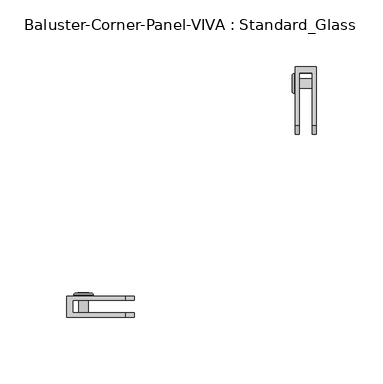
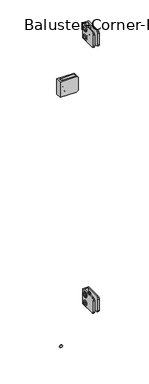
"""IFC4 building model written with IfcOpenShell, lengths in millimetres: railing geometry, Baluster-Corner-Panel-VIVA : Standard_Glass."""

from ifc_helpers import new_model, si_unit, point, frame, origin, place, context, project, spatial, polyline, circle_curve, ellipse_curve, trimmed, outline, extrude, source, transform, mapped, element, save
from ifc_brep_helpers import plane_surface, cylinder_surface, revolved_surface, advanced_brep


def baluster_corner_panel_viva_standard_glass_eac9cc2a(model_context):
    return source(origin(), model_context, "Body", "SolidModel", [
        extrude(outline(polyline([(139.6831065, 917.178125), (137.6361423, 913.6326791), (133.542214, 913.6326791), (131.4952499, 917.178125), (133.542214, 920.7235709), (137.6361423, 920.7235709), (139.6831065, 917.178125)])), frame((21.7024185, 0.0, 0.0), z_axis=(1.0, 0.0, 0.0), x_axis=(0.0, 1.0, 0.0)), (0.0, 0.0, 1.0), 1.4969696),
        advanced_brep(
        [(36.7665, 139.1346241, 917.178125), (36.7665, 132.0437323, 917.178125), (24.0665, 132.0437323, 917.178125), (24.0665, 139.1346241, 917.178125), (24.0665, 128.1813891, 917.178125), (24.0665, 142.9969672, 917.178125), (23.199388, 137.2452536, 917.178125), (23.199388, 133.9331028, 917.178125), (36.7665, 133.9331028, 917.178125), (36.7665, 137.2452536, 917.178125), (23.2316551, 142.9969672, 917.178125), (23.2316551, 128.1813891, 917.178125), (21.9503831, 129.4626611, 917.178125), (21.9503831, 141.7156952, 917.178125), (21.9503831, 131.2905826, 917.178125), (21.9503831, 139.8877737, 917.178125), (23.199388, 131.2905826, 917.178125), (23.199388, 139.8877737, 917.178125)],
        [
            (0, 1, circle_curve(frame((36.7665, 135.5891782, 917.178125), z_axis=(-1.0, 0.0, 0.0), x_axis=(0.0, -1.0, 0.0)), 3.5454459)),
            (1, 2),
            (2, 3, circle_curve(frame((24.0665, 135.5891782, 917.178125), z_axis=(1.0, 0.0, 0.0), x_axis=(0.0, -1.0, 0.0)), 3.5454459)),
            (3, 0),
            (1, 0, circle_curve(frame((36.7665, 135.5891782, 917.178125), z_axis=(-1.0, 0.0, 0.0), x_axis=(0.0, -1.0, 0.0)), 3.5454459)),
            (3, 2, circle_curve(frame((24.0665, 135.5891782, 917.178125), z_axis=(1.0, 0.0, 0.0), x_axis=(0.0, -1.0, 0.0)), 3.5454459)),
            (2, 4),
            (4, 5, circle_curve(frame((24.0665, 135.5891782, 917.178125), z_axis=(1.0, 0.0, 0.0), x_axis=(0.0, -1.0, 0.0)), 7.4077891)),
            (5, 3),
            (5, 4, circle_curve(frame((24.0665, 135.5891782, 917.178125), z_axis=(1.0, 0.0, 0.0), x_axis=(0.0, -1.0, 0.0)), 7.4077891)),
            (6, 7, circle_curve(frame((23.199388, 135.5891782, 917.178125), z_axis=(-1.0, 0.0, 0.0), x_axis=(0.0, -1.0, 0.0)), 1.6560754)),
            (7, 8),
            (8, 9, circle_curve(frame((36.7665, 135.5891782, 917.178125), z_axis=(1.0, 0.0, 0.0), x_axis=(0.0, -1.0, 0.0)), 1.6560754)),
            (9, 6),
            (7, 6, circle_curve(frame((23.199388, 135.5891782, 917.178125), z_axis=(-1.0, 0.0, 0.0), x_axis=(0.0, -1.0, 0.0)), 1.6560754)),
            (9, 8, circle_curve(frame((36.7665, 135.5891782, 917.178125), z_axis=(1.0, 0.0, 0.0), x_axis=(0.0, -1.0, 0.0)), 1.6560754)),
            (10, 11, circle_curve(frame((23.2316551, 135.5891782, 917.178125), z_axis=(-1.0, 0.0, 0.0), x_axis=(0.0, -1.0, 0.0)), 7.4077891)),
            (11, 12, circle_curve(frame((23.2316551, 129.4626611, 917.178125), z_axis=(0.0, 0.0, -1.0), x_axis=(0.0, -1.0, 0.0)), 1.281272)),
            (12, 13, circle_curve(frame((21.9503831, 135.5891782, 917.178125), z_axis=(1.0, 0.0, 0.0), x_axis=(0.0, -1.0, 0.0)), 6.1265171)),
            (13, 10, circle_curve(frame((23.2316551, 141.7156952, 917.178125), z_axis=(0.0, 0.0, -1.0), x_axis=(0.0, 1.0, 0.0)), 1.281272)),
            (11, 10, circle_curve(frame((23.2316551, 135.5891782, 917.178125), z_axis=(-1.0, 0.0, 0.0), x_axis=(0.0, -1.0, 0.0)), 7.4077891)),
            (13, 12, circle_curve(frame((21.9503831, 135.5891782, 917.178125), z_axis=(1.0, 0.0, 0.0), x_axis=(0.0, -1.0, 0.0)), 6.1265171)),
            (12, 14),
            (14, 15, circle_curve(frame((21.9503831, 135.5891782, 917.178125), z_axis=(1.0, 0.0, 0.0), x_axis=(0.0, -1.0, 0.0)), 4.2985955)),
            (15, 13),
            (15, 14, circle_curve(frame((21.9503831, 135.5891782, 917.178125), z_axis=(1.0, 0.0, 0.0), x_axis=(0.0, -1.0, 0.0)), 4.2985955)),
            (4, 11),
            (10, 5),
            (8, 1),
            (0, 9),
            (14, 16),
            (16, 17, circle_curve(frame((23.199388, 135.5891782, 917.178125), z_axis=(1.0, 0.0, 0.0), x_axis=(0.0, -1.0, 0.0)), 4.2985955)),
            (17, 15),
            (17, 16, circle_curve(frame((23.199388, 135.5891782, 917.178125), z_axis=(1.0, 0.0, 0.0), x_axis=(0.0, -1.0, 0.0)), 4.2985955)),
            (16, 7),
            (6, 17),
        ],
        [
            cylinder_surface(frame((27.5632331, 135.5891782, 917.178125), z_axis=(1.0, 0.0, 0.0), x_axis=(0.0, -1.0, 0.0)), 3.5454459),
            plane_surface(frame((24.0665, 135.5891782, 917.178125), z_axis=(1.0, 0.0, 0.0), x_axis=(0.0, -1.0, 0.0))),
            revolved_surface(polyline([(36.7665, 133.9331028, 917.178125), (23.199388, 133.9331028, 917.178125)]), (27.5632331, 135.5891782, 917.178125), (1.0, 0.0, 0.0)),
            revolved_surface(trimmed(ellipse_curve(frame((23.2316551, 129.4626611, 917.178125), z_axis=(0.0, 0.0, 1.0), x_axis=(0.0, -1.0, 0.0)), 1.281272, 1.281272), [point((21.9503831, 129.4626611, 917.178125))], [point((23.2316551, 128.1813891, 917.178125))], True, "CARTESIAN"), (27.5632331, 135.5891782, 917.178125), (1.0, 0.0, 0.0)),
            plane_surface(frame((21.9503831, 135.5891782, 917.178125), z_axis=(-1.0, 0.0, 0.0), x_axis=(0.0, -1.0, 0.0))),
            cylinder_surface(frame((27.5632331, 135.5891782, 917.178125), z_axis=(1.0, 0.0, 0.0), x_axis=(0.0, -1.0, 0.0)), 7.4077891),
            plane_surface(frame((36.7665, 135.5891782, 917.178125), z_axis=(1.0, 0.0, 0.0), x_axis=(0.0, -1.0, 0.0))),
            revolved_surface(polyline([(23.199388, 131.2905827, 917.178125), (21.9503831, 131.2905827, 917.178125)]), (27.5632331, 135.5891782, 917.178125), (1.0, 0.0, 0.0)),
            plane_surface(frame((23.199388, 135.5891782, 917.178125), z_axis=(-1.0, 0.0, 0.0), x_axis=(0.0, -1.0, 0.0))),
        ],
        [
            (0, [[1, 2, 3, 4]]),
            (0, [[5, -4, 6, -2]]),
            (1, [[-3, 7, 8, 9]]),
            (1, [[-6, -9, 10, -7]]),
            (2, [[11, 12, 13, 14]]),
            (2, [[15, -14, 16, -12]]),
            (3, [[17, 18, 19, 20]]),
            (3, [[21, -20, 22, -18]]),
            (4, [[-19, 23, 24, 25]]),
            (4, [[-22, -25, 26, -23]]),
            (5, [[-8, 27, -17, 28]]),
            (5, [[-10, -28, -21, -27]]),
            (6, [[-13, 29, -1, 30]]),
            (6, [[-16, -30, -5, -29]]),
            (7, [[-24, 31, 32, 33]]),
            (7, [[-26, -33, 34, -31]]),
            (8, [[-32, 35, -11, 36]]),
            (8, [[-34, -36, -15, -35]]),
        ],
    ),
        advanced_brep(
        [(36.7665, 139.1346241, 892.571875), (36.7665, 132.0437323, 892.571875), (24.0665, 132.0437323, 892.571875), (24.0665, 139.1346241, 892.571875), (24.0665, 128.1813891, 892.571875), (24.0665, 142.9969672, 892.571875), (23.199388, 137.2452536, 892.571875), (23.199388, 133.9331028, 892.571875), (36.7665, 133.9331028, 892.571875), (36.7665, 137.2452536, 892.571875), (23.2316551, 142.9969672, 892.571875), (23.2316551, 128.1813891, 892.571875), (21.9503831, 129.4626611, 892.571875), (21.9503831, 141.7156952, 892.571875), (21.9503831, 131.2905826, 892.571875), (21.9503831, 139.8877737, 892.571875), (23.199388, 131.2905826, 892.571875), (23.199388, 139.8877737, 892.571875)],
        [
            (0, 1, circle_curve(frame((36.7665, 135.5891782, 892.571875), z_axis=(-1.0, 0.0, 0.0), x_axis=(0.0, -1.0, 0.0)), 3.5454459)),
            (1, 2),
            (2, 3, circle_curve(frame((24.0665, 135.5891782, 892.571875), z_axis=(1.0, 0.0, 0.0), x_axis=(0.0, -1.0, 0.0)), 3.5454459)),
            (3, 0),
            (1, 0, circle_curve(frame((36.7665, 135.5891782, 892.571875), z_axis=(-1.0, 0.0, 0.0), x_axis=(0.0, -1.0, 0.0)), 3.5454459)),
            (3, 2, circle_curve(frame((24.0665, 135.5891782, 892.571875), z_axis=(1.0, 0.0, 0.0), x_axis=(0.0, -1.0, 0.0)), 3.5454459)),
            (2, 4),
            (4, 5, circle_curve(frame((24.0665, 135.5891782, 892.571875), z_axis=(1.0, 0.0, 0.0), x_axis=(0.0, -1.0, 0.0)), 7.4077891)),
            (5, 3),
            (5, 4, circle_curve(frame((24.0665, 135.5891782, 892.571875), z_axis=(1.0, 0.0, 0.0), x_axis=(0.0, -1.0, 0.0)), 7.4077891)),
            (6, 7, circle_curve(frame((23.199388, 135.5891782, 892.571875), z_axis=(-1.0, 0.0, 0.0), x_axis=(0.0, -1.0, 0.0)), 1.6560754)),
            (7, 8),
            (8, 9, circle_curve(frame((36.7665, 135.5891782, 892.571875), z_axis=(1.0, 0.0, 0.0), x_axis=(0.0, -1.0, 0.0)), 1.6560754)),
            (9, 6),
            (7, 6, circle_curve(frame((23.199388, 135.5891782, 892.571875), z_axis=(-1.0, 0.0, 0.0), x_axis=(0.0, -1.0, 0.0)), 1.6560754)),
            (9, 8, circle_curve(frame((36.7665, 135.5891782, 892.571875), z_axis=(1.0, 0.0, 0.0), x_axis=(0.0, -1.0, 0.0)), 1.6560754)),
            (10, 11, circle_curve(frame((23.2316551, 135.5891782, 892.571875), z_axis=(-1.0, 0.0, 0.0), x_axis=(0.0, -1.0, 0.0)), 7.4077891)),
            (11, 12, circle_curve(frame((23.2316551, 129.4626611, 892.571875), z_axis=(0.0, 0.0, -1.0), x_axis=(0.0, -1.0, 0.0)), 1.281272)),
            (12, 13, circle_curve(frame((21.9503831, 135.5891782, 892.571875), z_axis=(1.0, 0.0, 0.0), x_axis=(0.0, -1.0, 0.0)), 6.1265171)),
            (13, 10, circle_curve(frame((23.2316551, 141.7156952, 892.571875), z_axis=(0.0, 0.0, -1.0), x_axis=(0.0, 1.0, 0.0)), 1.281272)),
            (11, 10, circle_curve(frame((23.2316551, 135.5891782, 892.571875), z_axis=(-1.0, 0.0, 0.0), x_axis=(0.0, -1.0, 0.0)), 7.4077891)),
            (13, 12, circle_curve(frame((21.9503831, 135.5891782, 892.571875), z_axis=(1.0, 0.0, 0.0), x_axis=(0.0, -1.0, 0.0)), 6.1265171)),
            (12, 14),
            (14, 15, circle_curve(frame((21.9503831, 135.5891782, 892.571875), z_axis=(1.0, 0.0, 0.0), x_axis=(0.0, -1.0, 0.0)), 4.2985955)),
            (15, 13),
            (15, 14, circle_curve(frame((21.9503831, 135.5891782, 892.571875), z_axis=(1.0, 0.0, 0.0), x_axis=(0.0, -1.0, 0.0)), 4.2985955)),
            (8, 1),
            (0, 9),
            (4, 11),
            (10, 5),
            (14, 16),
            (16, 17, circle_curve(frame((23.199388, 135.5891782, 892.571875), z_axis=(1.0, 0.0, 0.0), x_axis=(0.0, -1.0, 0.0)), 4.2985955)),
            (17, 15),
            (17, 16, circle_curve(frame((23.199388, 135.5891782, 892.571875), z_axis=(1.0, 0.0, 0.0), x_axis=(0.0, -1.0, 0.0)), 4.2985955)),
            (16, 7),
            (6, 17),
        ],
        [
            cylinder_surface(frame((27.5632331, 135.5891782, 892.571875), z_axis=(1.0, 0.0, 0.0), x_axis=(0.0, -1.0, 0.0)), 3.5454459),
            plane_surface(frame((24.0665, 135.5891782, 892.571875), z_axis=(1.0, 0.0, 0.0), x_axis=(0.0, -1.0, 0.0))),
            revolved_surface(polyline([(36.7665, 133.9331028, 892.571875), (23.199388, 133.9331028, 892.571875)]), (27.5632331, 135.5891782, 892.571875), (1.0, 0.0, 0.0)),
            revolved_surface(trimmed(ellipse_curve(frame((23.2316551, 129.4626611, 892.571875), z_axis=(0.0, 0.0, 1.0), x_axis=(0.0, -1.0, 0.0)), 1.281272, 1.281272), [point((21.9503831, 129.4626611, 892.571875))], [point((23.2316551, 128.1813891, 892.571875))], True, "CARTESIAN"), (27.5632331, 135.5891782, 892.571875), (1.0, 0.0, 0.0)),
            plane_surface(frame((21.9503831, 135.5891782, 892.571875), z_axis=(-1.0, 0.0, 0.0), x_axis=(0.0, -1.0, 0.0))),
            plane_surface(frame((36.7665, 135.5891782, 892.571875), z_axis=(1.0, 0.0, 0.0), x_axis=(0.0, -1.0, 0.0))),
            cylinder_surface(frame((27.5632331, 135.5891782, 892.571875), z_axis=(1.0, 0.0, 0.0), x_axis=(0.0, -1.0, 0.0)), 7.4077891),
            revolved_surface(polyline([(23.199388, 131.2905827, 892.571875), (21.9503831, 131.2905827, 892.571875)]), (27.5632331, 135.5891782, 892.571875), (1.0, 0.0, 0.0)),
            plane_surface(frame((23.199388, 135.5891782, 892.571875), z_axis=(-1.0, 0.0, 0.0), x_axis=(0.0, -1.0, 0.0))),
        ],
        [
            (0, [[1, 2, 3, 4]]),
            (0, [[5, -4, 6, -2]]),
            (1, [[-3, 7, 8, 9]]),
            (1, [[-6, -9, 10, -7]]),
            (2, [[11, 12, 13, 14]]),
            (2, [[15, -14, 16, -12]]),
            (3, [[17, 18, 19, 20]]),
            (3, [[21, -20, 22, -18]]),
            (4, [[-19, 23, 24, 25]]),
            (4, [[-22, -25, 26, -23]]),
            (5, [[-13, 27, -1, 28]]),
            (5, [[-16, -28, -5, -27]]),
            (6, [[-8, 29, -17, 30]]),
            (6, [[-10, -30, -21, -29]]),
            (7, [[-24, 31, 32, 33]]),
            (7, [[-26, -33, 34, -31]]),
            (8, [[-32, 35, -11, 36]]),
            (8, [[-34, -36, -15, -35]]),
        ],
    ),
        extrude(outline(polyline([(139.6831065, 892.571875), (137.6361423, 889.0264291), (133.542214, 889.0264291), (131.4952499, 892.571875), (133.542214, 896.1173209), (137.6361423, 896.1173209), (139.6831065, 892.571875)])), frame((21.7024185, 0.0, 0.0), z_axis=(1.0, 0.0, 0.0), x_axis=(0.0, 1.0, 0.0)), (0.0, 0.0, 1.0), 1.4969696),
        advanced_brep(
        [(24.0665, 148.2225229, 927.1), (24.0665, 148.2225229, 882.65), (24.0665, 103.7725229, 882.65), (24.0665, 97.4225229, 889.0), (24.0665, 97.4225229, 920.75), (24.0665, 103.7725229, 927.1), (39.9415, 148.2225229, 927.1), (39.9415, 103.7725229, 927.1), (39.9415, 97.4225229, 920.75), (39.9415, 97.4225229, 889.0), (39.9415, 103.7725229, 882.65), (39.9415, 148.2225229, 882.65), (36.7665, 103.7725229, 882.65), (36.7665, 143.5044425, 882.65), (27.2415, 143.5044425, 882.65), (27.2415, 103.7725229, 882.65), (36.7665, 143.5044425, 927.1), (27.2415, 143.5044425, 927.1), (27.2415, 103.7725229, 927.1), (27.2415, 97.4225229, 920.75), (27.2415, 97.4225229, 889.0), (36.7665, 97.4225229, 889.0), (36.7665, 97.4225229, 920.75), (36.7665, 103.7725229, 927.1)],
        [
            (0, 1),
            (1, 2),
            (2, 3, circle_curve(frame((24.0665, 103.7725229, 889.0), z_axis=(-1.0, 0.0, 0.0), x_axis=(0.0, -1.0, 0.0)), 6.35)),
            (3, 4),
            (4, 5, circle_curve(frame((24.0665, 103.7725229, 920.75), z_axis=(-1.0, 0.0, 0.0), x_axis=(0.0, -1.0, 0.0)), 6.35)),
            (5, 0),
            (6, 7),
            (7, 8, circle_curve(frame((39.9415, 103.7725229, 920.75), z_axis=(1.0, 0.0, 0.0), x_axis=(0.0, -1.0, 0.0)), 6.35)),
            (8, 9),
            (9, 10, circle_curve(frame((39.9415, 103.7725229, 889.0), z_axis=(1.0, 0.0, 0.0), x_axis=(0.0, -1.0, 0.0)), 6.35)),
            (10, 11),
            (11, 6),
            (0, 6),
            (11, 1),
            (10, 12),
            (12, 13),
            (13, 14),
            (14, 15),
            (15, 2),
            (13, 16),
            (16, 17),
            (17, 14),
            (17, 18),
            (18, 19, circle_curve(frame((27.2415, 103.7725229, 920.75), z_axis=(1.0, 0.0, 0.0), x_axis=(0.0, -1.0, 0.0)), 6.35)),
            (19, 20),
            (20, 15, circle_curve(frame((27.2415, 103.7725229, 889.0), z_axis=(1.0, 0.0, 0.0), x_axis=(0.0, -1.0, 0.0)), 6.35)),
            (12, 21, circle_curve(frame((36.7665, 103.7725229, 889.0), z_axis=(-1.0, 0.0, 0.0), x_axis=(0.0, -1.0, 0.0)), 6.35)),
            (21, 22),
            (22, 23, circle_curve(frame((36.7665, 103.7725229, 920.75), z_axis=(-1.0, 0.0, 0.0), x_axis=(0.0, -1.0, 0.0)), 6.35)),
            (23, 16),
            (20, 3),
            (9, 21),
            (19, 4),
            (8, 22),
            (18, 5),
            (7, 23),
        ],
        [
            plane_surface(frame((24.0665, 148.2225229, 882.65), z_axis=(-1.0, 0.0, 0.0), x_axis=(0.0, 0.0, -1.0))),
            plane_surface(frame((39.9415, 148.2225229, 882.65), z_axis=(1.0, 0.0, 0.0), x_axis=(0.0, 0.0, 1.0))),
            plane_surface(frame((24.0665, 148.2225229, 927.1), z_axis=(0.0, 1.0, 0.0), x_axis=(1.0, 0.0, 0.0))),
            plane_surface(frame((24.0665, 148.2225229, 882.65), z_axis=(0.0, 0.0, -1.0), x_axis=(1.0, 0.0, 0.0))),
            plane_surface(frame((36.7665, 143.5044425, 939.8), z_axis=(0.0, -1.0, 0.0), x_axis=(0.0, 0.0, -1.0))),
            plane_surface(frame((27.2415, 143.5044425, 939.8), z_axis=(1.0, 0.0, 0.0), x_axis=(0.0, 0.0, -1.0))),
            plane_surface(frame((36.7665, 84.7225229, 939.8), z_axis=(-1.0, 0.0, 0.0), x_axis=(0.0, 0.0, -1.0))),
            cylinder_surface(frame((39.9415, 103.7725229, 889.0), z_axis=(-1.0, 0.0, 0.0), x_axis=(0.0, -1.0, 0.0)), 6.35),
            plane_surface(frame((24.0665, 97.4225229, 889.0), z_axis=(0.0, -1.0, 0.0), x_axis=(1.0, 0.0, 0.0))),
            cylinder_surface(frame((39.9415, 103.7725229, 920.75), z_axis=(-1.0, 0.0, 0.0), x_axis=(0.0, -1.0, 0.0)), 6.35),
            plane_surface(frame((24.0665, 103.7725229, 927.1), z_axis=(0.0, 0.0, 1.0), x_axis=(1.0, 0.0, 0.0))),
        ],
        [
            (0, [[1, 2, 3, 4, 5, 6]]),
            (1, [[7, 8, 9, 10, 11, 12]]),
            (2, [[-1, 13, -12, 14]]),
            (3, [[-2, -14, -11, 15, 16, 17, 18, 19]]),
            (4, [[20, 21, 22, -17]]),
            (5, [[-22, 23, 24, 25, 26, -18]]),
            (6, [[-20, -16, 27, 28, 29, 30]]),
            (7, [[-3, -19, -26, 31]]),
            (7, [[-10, 32, -27, -15]]),
            (8, [[-4, -31, -25, 33]]),
            (8, [[-9, 34, -28, -32]]),
            (9, [[-5, -33, -24, 35]]),
            (9, [[-8, 36, -29, -34]]),
            (10, [[-6, -35, -23, -21, -30, -36, -7, -13]]),
        ],
    ),
        extrude(outline(polyline([(139.6831065, 138.7358896), (137.6361423, 135.1904437), (133.542214, 135.1904437), (131.4952499, 138.7358896), (133.542214, 142.2813355), (137.6361423, 142.2813355), (139.6831065, 138.7358896)])), frame((21.7024185, 0.0, 0.0), z_axis=(1.0, 0.0, 0.0), x_axis=(0.0, 1.0, 0.0)), (0.0, 0.0, 1.0), 1.4969696),
        advanced_brep(
        [(36.7665, 139.1346241, 138.7358896), (36.7665, 132.0437323, 138.7358896), (24.0665, 132.0437323, 138.7358896), (24.0665, 139.1346241, 138.7358896), (24.0665, 128.1813891, 138.7358896), (24.0665, 142.9969672, 138.7358896), (23.199388, 137.2452536, 138.7358896), (23.199388, 133.9331028, 138.7358896), (36.7665, 133.9331028, 138.7358896), (36.7665, 137.2452536, 138.7358896), (23.2316551, 142.9969672, 138.7358896), (23.2316551, 128.1813891, 138.7358896), (21.9503831, 129.4626611, 138.7358896), (21.9503831, 141.7156952, 138.7358896), (21.9503831, 131.2905826, 138.7358896), (21.9503831, 139.8877737, 138.7358896), (23.199388, 131.2905826, 138.7358896), (23.199388, 139.8877737, 138.7358896)],
        [
            (0, 1, circle_curve(frame((36.7665, 135.5891782, 138.7358896), z_axis=(-1.0, 0.0, 0.0), x_axis=(0.0, -1.0, 0.0)), 3.5454459)),
            (1, 2),
            (2, 3, circle_curve(frame((24.0665, 135.5891782, 138.7358896), z_axis=(1.0, 0.0, 0.0), x_axis=(0.0, -1.0, 0.0)), 3.5454459)),
            (3, 0),
            (1, 0, circle_curve(frame((36.7665, 135.5891782, 138.7358896), z_axis=(-1.0, 0.0, 0.0), x_axis=(0.0, -1.0, 0.0)), 3.5454459)),
            (3, 2, circle_curve(frame((24.0665, 135.5891782, 138.7358896), z_axis=(1.0, 0.0, 0.0), x_axis=(0.0, -1.0, 0.0)), 3.5454459)),
            (2, 4),
            (4, 5, circle_curve(frame((24.0665, 135.5891782, 138.7358896), z_axis=(1.0, 0.0, 0.0), x_axis=(0.0, -1.0, 0.0)), 7.4077891)),
            (5, 3),
            (5, 4, circle_curve(frame((24.0665, 135.5891782, 138.7358896), z_axis=(1.0, 0.0, 0.0), x_axis=(0.0, -1.0, 0.0)), 7.4077891)),
            (6, 7, circle_curve(frame((23.199388, 135.5891782, 138.7358896), z_axis=(-1.0, 0.0, 0.0), x_axis=(0.0, -1.0, 0.0)), 1.6560754)),
            (7, 8),
            (8, 9, circle_curve(frame((36.7665, 135.5891782, 138.7358896), z_axis=(1.0, 0.0, 0.0), x_axis=(0.0, -1.0, 0.0)), 1.6560754)),
            (9, 6),
            (7, 6, circle_curve(frame((23.199388, 135.5891782, 138.7358896), z_axis=(-1.0, 0.0, 0.0), x_axis=(0.0, -1.0, 0.0)), 1.6560754)),
            (9, 8, circle_curve(frame((36.7665, 135.5891782, 138.7358896), z_axis=(1.0, 0.0, 0.0), x_axis=(0.0, -1.0, 0.0)), 1.6560754)),
            (10, 11, circle_curve(frame((23.2316551, 135.5891782, 138.7358896), z_axis=(-1.0, 0.0, 0.0), x_axis=(0.0, -1.0, 0.0)), 7.4077891)),
            (11, 12, circle_curve(frame((23.2316551, 129.4626611, 138.7358896), z_axis=(0.0, 0.0, -1.0), x_axis=(0.0, -1.0, 0.0)), 1.281272)),
            (12, 13, circle_curve(frame((21.9503831, 135.5891782, 138.7358896), z_axis=(1.0, 0.0, 0.0), x_axis=(0.0, -1.0, 0.0)), 6.1265171)),
            (13, 10, circle_curve(frame((23.2316551, 141.7156952, 138.7358896), z_axis=(0.0, 0.0, -1.0), x_axis=(0.0, 1.0, 0.0)), 1.281272)),
            (11, 10, circle_curve(frame((23.2316551, 135.5891782, 138.7358896), z_axis=(-1.0, 0.0, 0.0), x_axis=(0.0, -1.0, 0.0)), 7.4077891)),
            (13, 12, circle_curve(frame((21.9503831, 135.5891782, 138.7358896), z_axis=(1.0, 0.0, 0.0), x_axis=(0.0, -1.0, 0.0)), 6.1265171)),
            (12, 14),
            (14, 15, circle_curve(frame((21.9503831, 135.5891782, 138.7358896), z_axis=(1.0, 0.0, 0.0), x_axis=(0.0, -1.0, 0.0)), 4.2985955)),
            (15, 13),
            (15, 14, circle_curve(frame((21.9503831, 135.5891782, 138.7358896), z_axis=(1.0, 0.0, 0.0), x_axis=(0.0, -1.0, 0.0)), 4.2985955)),
            (4, 11),
            (10, 5),
            (8, 1),
            (0, 9),
            (14, 16),
            (16, 17, circle_curve(frame((23.199388, 135.5891782, 138.7358896), z_axis=(1.0, 0.0, 0.0), x_axis=(0.0, -1.0, 0.0)), 4.2985955)),
            (17, 15),
            (17, 16, circle_curve(frame((23.199388, 135.5891782, 138.7358896), z_axis=(1.0, 0.0, 0.0), x_axis=(0.0, -1.0, 0.0)), 4.2985955)),
            (16, 7),
            (6, 17),
        ],
        [
            cylinder_surface(frame((27.5632331, 135.5891782, 138.7358896), z_axis=(1.0, 0.0, 0.0), x_axis=(0.0, -1.0, 0.0)), 3.5454459),
            plane_surface(frame((24.0665, 135.5891782, 138.7358896), z_axis=(1.0, 0.0, 0.0), x_axis=(0.0, -1.0, 0.0))),
            revolved_surface(polyline([(36.7665, 133.9331028, 138.7358896), (23.199388, 133.9331028, 138.7358896)]), (27.5632331, 135.5891782, 138.7358896), (1.0, 0.0, 0.0)),
            revolved_surface(trimmed(ellipse_curve(frame((23.2316551, 129.4626611, 138.7358896), z_axis=(0.0, 0.0, 1.0), x_axis=(0.0, -1.0, 0.0)), 1.281272, 1.281272), [point((21.9503831, 129.4626611, 138.7358896))], [point((23.2316551, 128.1813891, 138.7358896))], True, "CARTESIAN"), (27.5632331, 135.5891782, 138.7358896), (1.0, 0.0, 0.0)),
            plane_surface(frame((21.9503831, 135.5891782, 138.7358896), z_axis=(-1.0, 0.0, 0.0), x_axis=(0.0, -1.0, 0.0))),
            cylinder_surface(frame((27.5632331, 135.5891782, 138.7358896), z_axis=(1.0, 0.0, 0.0), x_axis=(0.0, -1.0, 0.0)), 7.4077891),
            plane_surface(frame((36.7665, 135.5891782, 138.7358896), z_axis=(1.0, 0.0, 0.0), x_axis=(0.0, -1.0, 0.0))),
            revolved_surface(polyline([(23.199388, 131.2905827, 138.7358896), (21.9503831, 131.2905827, 138.7358896)]), (27.5632331, 135.5891782, 138.7358896), (1.0, 0.0, 0.0)),
            plane_surface(frame((23.199388, 135.5891782, 138.7358896), z_axis=(-1.0, 0.0, 0.0), x_axis=(0.0, -1.0, 0.0))),
        ],
        [
            (0, [[1, 2, 3, 4]]),
            (0, [[5, -4, 6, -2]]),
            (1, [[-3, 7, 8, 9]]),
            (1, [[-6, -9, 10, -7]]),
            (2, [[11, 12, 13, 14]]),
            (2, [[15, -14, 16, -12]]),
            (3, [[17, 18, 19, 20]]),
            (3, [[21, -20, 22, -18]]),
            (4, [[-19, 23, 24, 25]]),
            (4, [[-22, -25, 26, -23]]),
            (5, [[-8, 27, -17, 28]]),
            (5, [[-10, -28, -21, -27]]),
            (6, [[-13, 29, -1, 30]]),
            (6, [[-16, -30, -5, -29]]),
            (7, [[-24, 31, 32, 33]]),
            (7, [[-26, -33, 34, -31]]),
            (8, [[-32, 35, -11, 36]]),
            (8, [[-34, -36, -15, -35]]),
        ],
    ),
        advanced_brep(
        [(36.7665, 139.1346241, 114.1296396), (36.7665, 132.0437323, 114.1296396), (24.0665, 132.0437323, 114.1296396), (24.0665, 139.1346241, 114.1296396), (24.0665, 128.1813891, 114.1296396), (24.0665, 142.9969672, 114.1296396), (23.199388, 137.2452536, 114.1296396), (23.199388, 133.9331028, 114.1296396), (36.7665, 133.9331028, 114.1296396), (36.7665, 137.2452536, 114.1296396), (23.2316551, 142.9969672, 114.1296396), (23.2316551, 128.1813891, 114.1296396), (21.9503831, 129.4626611, 114.1296396), (21.9503831, 141.7156952, 114.1296396), (21.9503831, 131.2905826, 114.1296396), (21.9503831, 139.8877737, 114.1296396), (23.199388, 131.2905826, 114.1296396), (23.199388, 139.8877737, 114.1296396)],
        [
            (0, 1, circle_curve(frame((36.7665, 135.5891782, 114.1296396), z_axis=(-1.0, 0.0, 0.0), x_axis=(0.0, -1.0, 0.0)), 3.5454459)),
            (1, 2),
            (2, 3, circle_curve(frame((24.0665, 135.5891782, 114.1296396), z_axis=(1.0, 0.0, 0.0), x_axis=(0.0, -1.0, 0.0)), 3.5454459)),
            (3, 0),
            (1, 0, circle_curve(frame((36.7665, 135.5891782, 114.1296396), z_axis=(-1.0, 0.0, 0.0), x_axis=(0.0, -1.0, 0.0)), 3.5454459)),
            (3, 2, circle_curve(frame((24.0665, 135.5891782, 114.1296396), z_axis=(1.0, 0.0, 0.0), x_axis=(0.0, -1.0, 0.0)), 3.5454459)),
            (2, 4),
            (4, 5, circle_curve(frame((24.0665, 135.5891782, 114.1296396), z_axis=(1.0, 0.0, 0.0), x_axis=(0.0, -1.0, 0.0)), 7.4077891)),
            (5, 3),
            (5, 4, circle_curve(frame((24.0665, 135.5891782, 114.1296396), z_axis=(1.0, 0.0, 0.0), x_axis=(0.0, -1.0, 0.0)), 7.4077891)),
            (6, 7, circle_curve(frame((23.199388, 135.5891782, 114.1296396), z_axis=(-1.0, 0.0, 0.0), x_axis=(0.0, -1.0, 0.0)), 1.6560754)),
            (7, 8),
            (8, 9, circle_curve(frame((36.7665, 135.5891782, 114.1296396), z_axis=(1.0, 0.0, 0.0), x_axis=(0.0, -1.0, 0.0)), 1.6560754)),
            (9, 6),
            (7, 6, circle_curve(frame((23.199388, 135.5891782, 114.1296396), z_axis=(-1.0, 0.0, 0.0), x_axis=(0.0, -1.0, 0.0)), 1.6560754)),
            (9, 8, circle_curve(frame((36.7665, 135.5891782, 114.1296396), z_axis=(1.0, 0.0, 0.0), x_axis=(0.0, -1.0, 0.0)), 1.6560754)),
            (10, 11, circle_curve(frame((23.2316551, 135.5891782, 114.1296396), z_axis=(-1.0, 0.0, 0.0), x_axis=(0.0, -1.0, 0.0)), 7.4077891)),
            (11, 12, circle_curve(frame((23.2316551, 129.4626611, 114.1296396), z_axis=(0.0, 0.0, -1.0), x_axis=(0.0, -1.0, 0.0)), 1.281272)),
            (12, 13, circle_curve(frame((21.9503831, 135.5891782, 114.1296396), z_axis=(1.0, 0.0, 0.0), x_axis=(0.0, -1.0, 0.0)), 6.1265171)),
            (13, 10, circle_curve(frame((23.2316551, 141.7156952, 114.1296396), z_axis=(0.0, 0.0, -1.0), x_axis=(0.0, 1.0, 0.0)), 1.281272)),
            (11, 10, circle_curve(frame((23.2316551, 135.5891782, 114.1296396), z_axis=(-1.0, 0.0, 0.0), x_axis=(0.0, -1.0, 0.0)), 7.4077891)),
            (13, 12, circle_curve(frame((21.9503831, 135.5891782, 114.1296396), z_axis=(1.0, 0.0, 0.0), x_axis=(0.0, -1.0, 0.0)), 6.1265171)),
            (12, 14),
            (14, 15, circle_curve(frame((21.9503831, 135.5891782, 114.1296396), z_axis=(1.0, 0.0, 0.0), x_axis=(0.0, -1.0, 0.0)), 4.2985955)),
            (15, 13),
            (15, 14, circle_curve(frame((21.9503831, 135.5891782, 114.1296396), z_axis=(1.0, 0.0, 0.0), x_axis=(0.0, -1.0, 0.0)), 4.2985955)),
            (8, 1),
            (0, 9),
            (4, 11),
            (10, 5),
            (14, 16),
            (16, 17, circle_curve(frame((23.199388, 135.5891782, 114.1296396), z_axis=(1.0, 0.0, 0.0), x_axis=(0.0, -1.0, 0.0)), 4.2985955)),
            (17, 15),
            (17, 16, circle_curve(frame((23.199388, 135.5891782, 114.1296396), z_axis=(1.0, 0.0, 0.0), x_axis=(0.0, -1.0, 0.0)), 4.2985955)),
            (16, 7),
            (6, 17),
        ],
        [
            cylinder_surface(frame((27.5632331, 135.5891782, 114.1296396), z_axis=(1.0, 0.0, 0.0), x_axis=(0.0, -1.0, 0.0)), 3.5454459),
            plane_surface(frame((24.0665, 135.5891782, 114.1296396), z_axis=(1.0, 0.0, 0.0), x_axis=(0.0, -1.0, 0.0))),
            revolved_surface(polyline([(36.7665, 133.9331028, 114.1296396), (23.199388, 133.9331028, 114.1296396)]), (27.5632331, 135.5891782, 114.1296396), (1.0, 0.0, 0.0)),
            revolved_surface(trimmed(ellipse_curve(frame((23.2316551, 129.4626611, 114.1296396), z_axis=(0.0, 0.0, 1.0), x_axis=(0.0, -1.0, 0.0)), 1.281272, 1.281272), [point((21.9503831, 129.4626611, 114.1296396))], [point((23.2316551, 128.1813891, 114.1296396))], True, "CARTESIAN"), (27.5632331, 135.5891782, 114.1296396), (1.0, 0.0, 0.0)),
            plane_surface(frame((21.9503831, 135.5891782, 114.1296396), z_axis=(-1.0, 0.0, 0.0), x_axis=(0.0, -1.0, 0.0))),
            plane_surface(frame((36.7665, 135.5891782, 114.1296396), z_axis=(1.0, 0.0, 0.0), x_axis=(0.0, -1.0, 0.0))),
            cylinder_surface(frame((27.5632331, 135.5891782, 114.1296396), z_axis=(1.0, 0.0, 0.0), x_axis=(0.0, -1.0, 0.0)), 7.4077891),
            revolved_surface(polyline([(23.199388, 131.2905827, 114.1296396), (21.9503831, 131.2905827, 114.1296396)]), (27.5632331, 135.5891782, 114.1296396), (1.0, 0.0, 0.0)),
            plane_surface(frame((23.199388, 135.5891782, 114.1296396), z_axis=(-1.0, 0.0, 0.0), x_axis=(0.0, -1.0, 0.0))),
        ],
        [
            (0, [[1, 2, 3, 4]]),
            (0, [[5, -4, 6, -2]]),
            (1, [[-3, 7, 8, 9]]),
            (1, [[-6, -9, 10, -7]]),
            (2, [[11, 12, 13, 14]]),
            (2, [[15, -14, 16, -12]]),
            (3, [[17, 18, 19, 20]]),
            (3, [[21, -20, 22, -18]]),
            (4, [[-19, 23, 24, 25]]),
            (4, [[-22, -25, 26, -23]]),
            (5, [[-13, 27, -1, 28]]),
            (5, [[-16, -28, -5, -27]]),
            (6, [[-8, 29, -17, 30]]),
            (6, [[-10, -30, -21, -29]]),
            (7, [[-24, 31, 32, 33]]),
            (7, [[-26, -33, 34, -31]]),
            (8, [[-32, 35, -11, 36]]),
            (8, [[-34, -36, -15, -35]]),
        ],
    ),
        extrude(outline(polyline([(139.6831065, 114.1296396), (137.6361423, 110.5841937), (133.542214, 110.5841937), (131.4952499, 114.1296396), (133.542214, 117.6750855), (137.6361423, 117.6750855), (139.6831065, 114.1296396)])), frame((21.7024185, 0.0, 0.0), z_axis=(1.0, 0.0, 0.0), x_axis=(0.0, 1.0, 0.0)), (0.0, 0.0, 1.0), 1.4969696),
        advanced_brep(
        [(24.0665, 148.2225229, 148.6577646), (24.0665, 148.2225229, 104.2077646), (24.0665, 103.7725229, 104.2077646), (24.0665, 97.4225229, 110.5577646), (24.0665, 97.4225229, 142.3077646), (24.0665, 103.7725229, 148.6577646), (39.9415, 148.2225229, 148.6577646), (39.9415, 103.7725229, 148.6577646), (39.9415, 97.4225229, 142.3077646), (39.9415, 97.4225229, 110.5577646), (39.9415, 103.7725229, 104.2077646), (39.9415, 148.2225229, 104.2077646), (36.7665, 103.7725229, 104.2077646), (36.7665, 143.5044425, 104.2077646), (27.2415, 143.5044425, 104.2077646), (27.2415, 103.7725229, 104.2077646), (36.7665, 143.5044425, 148.6577646), (27.2415, 143.5044425, 148.6577646), (27.2415, 103.7725229, 148.6577646), (27.2415, 97.4225229, 142.3077646), (27.2415, 97.4225229, 110.5577646), (36.7665, 97.4225229, 110.5577646), (36.7665, 97.4225229, 142.3077646), (36.7665, 103.7725229, 148.6577646)],
        [
            (0, 1),
            (1, 2),
            (2, 3, circle_curve(frame((24.0665, 103.7725229, 110.5577646), z_axis=(-1.0, 0.0, 0.0), x_axis=(0.0, -1.0, 0.0)), 6.35)),
            (3, 4),
            (4, 5, circle_curve(frame((24.0665, 103.7725229, 142.3077646), z_axis=(-1.0, 0.0, 0.0), x_axis=(0.0, -1.0, 0.0)), 6.35)),
            (5, 0),
            (6, 7),
            (7, 8, circle_curve(frame((39.9415, 103.7725229, 142.3077646), z_axis=(1.0, 0.0, 0.0), x_axis=(0.0, -1.0, 0.0)), 6.35)),
            (8, 9),
            (9, 10, circle_curve(frame((39.9415, 103.7725229, 110.5577646), z_axis=(1.0, 0.0, 0.0), x_axis=(0.0, -1.0, 0.0)), 6.35)),
            (10, 11),
            (11, 6),
            (0, 6),
            (11, 1),
            (10, 12),
            (12, 13),
            (13, 14),
            (14, 15),
            (15, 2),
            (13, 16),
            (16, 17),
            (17, 14),
            (17, 18),
            (18, 19, circle_curve(frame((27.2415, 103.7725229, 142.3077646), z_axis=(1.0, 0.0, 0.0), x_axis=(0.0, -1.0, 0.0)), 6.35)),
            (19, 20),
            (20, 15, circle_curve(frame((27.2415, 103.7725229, 110.5577646), z_axis=(1.0, 0.0, 0.0), x_axis=(0.0, -1.0, 0.0)), 6.35)),
            (12, 21, circle_curve(frame((36.7665, 103.7725229, 110.5577646), z_axis=(-1.0, 0.0, 0.0), x_axis=(0.0, -1.0, 0.0)), 6.35)),
            (21, 22),
            (22, 23, circle_curve(frame((36.7665, 103.7725229, 142.3077646), z_axis=(-1.0, 0.0, 0.0), x_axis=(0.0, -1.0, 0.0)), 6.35)),
            (23, 16),
            (20, 3),
            (9, 21),
            (19, 4),
            (8, 22),
            (18, 5),
            (7, 23),
        ],
        [
            plane_surface(frame((24.0665, 148.2225229, 104.2077646), z_axis=(-1.0, 0.0, 0.0), x_axis=(0.0, 0.0, -1.0))),
            plane_surface(frame((39.9415, 148.2225229, 104.2077646), z_axis=(1.0, 0.0, 0.0), x_axis=(0.0, 0.0, 1.0))),
            plane_surface(frame((24.0665, 148.2225229, 148.6577646), z_axis=(0.0, 1.0, 0.0), x_axis=(1.0, 0.0, 0.0))),
            plane_surface(frame((24.0665, 148.2225229, 104.2077646), z_axis=(0.0, 0.0, -1.0), x_axis=(1.0, 0.0, 0.0))),
            plane_surface(frame((36.7665, 143.5044425, 161.3577646), z_axis=(0.0, -1.0, 0.0), x_axis=(0.0, 0.0, -1.0))),
            plane_surface(frame((27.2415, 143.5044425, 161.3577646), z_axis=(1.0, 0.0, 0.0), x_axis=(0.0, 0.0, -1.0))),
            plane_surface(frame((36.7665, 84.7225229, 161.3577646), z_axis=(-1.0, 0.0, 0.0), x_axis=(0.0, 0.0, -1.0))),
            cylinder_surface(frame((39.9415, 103.7725229, 110.5577646), z_axis=(-1.0, 0.0, 0.0), x_axis=(0.0, -1.0, 0.0)), 6.35),
            plane_surface(frame((24.0665, 97.4225229, 110.5577646), z_axis=(0.0, -1.0, 0.0), x_axis=(1.0, 0.0, 0.0))),
            cylinder_surface(frame((39.9415, 103.7725229, 142.3077646), z_axis=(-1.0, 0.0, 0.0), x_axis=(0.0, -1.0, 0.0)), 6.35),
            plane_surface(frame((24.0665, 103.7725229, 148.6577646), z_axis=(0.0, 0.0, 1.0), x_axis=(1.0, 0.0, 0.0))),
        ],
        [
            (0, [[1, 2, 3, 4, 5, 6]]),
            (1, [[7, 8, 9, 10, 11, 12]]),
            (2, [[-1, 13, -12, 14]]),
            (3, [[-2, -14, -11, 15, 16, 17, 18, 19]]),
            (4, [[20, 21, 22, -17]]),
            (5, [[-22, 23, 24, 25, 26, -18]]),
            (6, [[-20, -16, 27, 28, 29, 30]]),
            (7, [[-3, -19, -26, 31]]),
            (7, [[-10, 32, -27, -15]]),
            (8, [[-4, -31, -25, 33]]),
            (8, [[-9, 34, -28, -32]]),
            (9, [[-5, -33, -24, 35]]),
            (9, [[-8, 36, -29, -34]]),
            (10, [[-6, -35, -23, -21, -30, -36, -7, -13]]),
        ],
    ),
        extrude(outline(polyline([(917.178125, -139.0580037), (913.6326791, -137.0110395), (913.6326791, -132.9171112), (917.178125, -130.8701471), (920.7235709, -132.9171112), (920.7235709, -137.0110395), (917.178125, -139.0580037)])), frame((0.0, -23.199388, 0.0), z_axis=(0.0, 1.0, 0.0), x_axis=(0.0, 0.0, 1.0)), (0.0, 0.0, 1.0), 1.4969696),
        advanced_brep(
        [(-138.5095213, -36.7665, 917.178125), (-138.5095213, -24.0665, 917.178125), (-131.4186295, -24.0665, 917.178125), (-131.4186295, -36.7665, 917.178125), (-142.3718645, -24.0665, 917.178125), (-127.5562863, -24.0665, 917.178125), (-136.6201508, -23.199388, 917.178125), (-136.6201508, -36.7665, 917.178125), (-133.308, -36.7665, 917.178125), (-133.308, -23.199388, 917.178125), (-142.3718645, -23.2316551, 917.178125), (-141.0905924, -21.9503831, 917.178125), (-128.8375583, -21.9503831, 917.178125), (-127.5562863, -23.2316551, 917.178125), (-139.2626709, -21.9503831, 917.178125), (-130.6654798, -21.9503831, 917.178125), (-139.2626709, -23.199388, 917.178125), (-130.6654798, -23.199388, 917.178125)],
        [
            (0, 1),
            (1, 2, circle_curve(frame((-134.9640754, -24.0665, 917.178125), z_axis=(0.0, -1.0, 0.0), x_axis=(1.0, 0.0, 0.0)), 3.5454459)),
            (2, 3),
            (3, 0, circle_curve(frame((-134.9640754, -36.7665, 917.178125), z_axis=(0.0, 1.0, 0.0), x_axis=(1.0, 0.0, 0.0)), 3.5454459)),
            (2, 1, circle_curve(frame((-134.9640754, -24.0665, 917.178125), z_axis=(0.0, -1.0, 0.0), x_axis=(1.0, 0.0, 0.0)), 3.5454459)),
            (0, 3, circle_curve(frame((-134.9640754, -36.7665, 917.178125), z_axis=(0.0, 1.0, 0.0), x_axis=(1.0, 0.0, 0.0)), 3.5454459)),
            (1, 4),
            (4, 5, circle_curve(frame((-134.9640754, -24.0665, 917.178125), z_axis=(0.0, -1.0, 0.0), x_axis=(1.0, 0.0, 0.0)), 7.4077891)),
            (5, 2),
            (5, 4, circle_curve(frame((-134.9640754, -24.0665, 917.178125), z_axis=(0.0, -1.0, 0.0), x_axis=(1.0, 0.0, 0.0)), 7.4077891)),
            (6, 7),
            (7, 8, circle_curve(frame((-134.9640754, -36.7665, 917.178125), z_axis=(0.0, -1.0, 0.0), x_axis=(1.0, 0.0, 0.0)), 1.6560754)),
            (8, 9),
            (9, 6, circle_curve(frame((-134.9640754, -23.199388, 917.178125), z_axis=(0.0, 1.0, 0.0), x_axis=(1.0, 0.0, 0.0)), 1.6560754)),
            (8, 7, circle_curve(frame((-134.9640754, -36.7665, 917.178125), z_axis=(0.0, -1.0, 0.0), x_axis=(1.0, 0.0, 0.0)), 1.6560754)),
            (6, 9, circle_curve(frame((-134.9640754, -23.199388, 917.178125), z_axis=(0.0, 1.0, 0.0), x_axis=(1.0, 0.0, 0.0)), 1.6560754)),
            (10, 11, circle_curve(frame((-141.0905924, -23.2316551, 917.178125), z_axis=(0.0, 0.0, -1.0), x_axis=(-1.0, 0.0, 0.0)), 1.281272)),
            (11, 12, circle_curve(frame((-134.9640754, -21.9503831, 917.178125), z_axis=(0.0, -1.0, 0.0), x_axis=(1.0, 0.0, 0.0)), 6.1265171)),
            (12, 13, circle_curve(frame((-128.8375583, -23.2316551, 917.178125), z_axis=(0.0, 0.0, -1.0), x_axis=(1.0, 0.0, 0.0)), 1.281272)),
            (13, 10, circle_curve(frame((-134.9640754, -23.2316551, 917.178125), z_axis=(0.0, 1.0, 0.0), x_axis=(1.0, 0.0, 0.0)), 7.4077891)),
            (12, 11, circle_curve(frame((-134.9640754, -21.9503831, 917.178125), z_axis=(0.0, -1.0, 0.0), x_axis=(1.0, 0.0, 0.0)), 6.1265171)),
            (10, 13, circle_curve(frame((-134.9640754, -23.2316551, 917.178125), z_axis=(0.0, 1.0, 0.0), x_axis=(1.0, 0.0, 0.0)), 7.4077891)),
            (11, 14),
            (14, 15, circle_curve(frame((-134.9640754, -21.9503831, 917.178125), z_axis=(0.0, -1.0, 0.0), x_axis=(1.0, 0.0, 0.0)), 4.2985955)),
            (15, 12),
            (15, 14, circle_curve(frame((-134.9640754, -21.9503831, 917.178125), z_axis=(0.0, -1.0, 0.0), x_axis=(1.0, 0.0, 0.0)), 4.2985955)),
            (4, 10),
            (13, 5),
            (7, 0),
            (3, 8),
            (14, 16),
            (16, 17, circle_curve(frame((-134.9640754, -23.199388, 917.178125), z_axis=(0.0, -1.0, 0.0), x_axis=(1.0, 0.0, 0.0)), 4.2985955)),
            (17, 15),
            (17, 16, circle_curve(frame((-134.9640754, -23.199388, 917.178125), z_axis=(0.0, -1.0, 0.0), x_axis=(1.0, 0.0, 0.0)), 4.2985955)),
            (16, 6),
            (9, 17),
        ],
        [
            cylinder_surface(frame((-134.9640754, -27.5632331, 917.178125), z_axis=(0.0, -1.0, 0.0), x_axis=(1.0, 0.0, 0.0)), 3.5454459),
            plane_surface(frame((-134.9640754, -24.0665, 917.178125), z_axis=(0.0, -1.0, 0.0), x_axis=(1.0, 0.0, 0.0))),
            revolved_surface(polyline([(-133.30800000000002, -36.7665, 917.178125), (-133.30800000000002, -23.199388, 917.178125)]), (-134.9640754, -27.5632331, 917.178125), (0.0, -1.0, 0.0)),
            revolved_surface(trimmed(ellipse_curve(frame((-128.8375583, -23.2316551, 917.178125), z_axis=(0.0, 0.0, -1.0), x_axis=(1.0, 0.0, 0.0)), 1.281272, 1.281272), [point((-128.8375583, -21.9503831, 917.178125))], [point((-127.5562863, -23.2316551, 917.178125))], True, "CARTESIAN"), (-134.9640754, -27.5632331, 917.178125), (0.0, -1.0, 0.0)),
            plane_surface(frame((-134.9640754, -21.9503831, 917.178125), z_axis=(0.0, 1.0, 0.0), x_axis=(1.0, 0.0, 0.0))),
            cylinder_surface(frame((-134.9640754, -27.5632331, 917.178125), z_axis=(0.0, -1.0, 0.0), x_axis=(1.0, 0.0, 0.0)), 7.4077891),
            plane_surface(frame((-134.9640754, -36.7665, 917.178125), z_axis=(0.0, -1.0, 0.0), x_axis=(1.0, 0.0, 0.0))),
            revolved_surface(polyline([(-130.6654799, -23.199388, 917.178125), (-130.6654799, -21.9503831, 917.178125)]), (-134.9640754, -27.5632331, 917.178125), (0.0, -1.0, 0.0)),
            plane_surface(frame((-134.9640754, -23.199388, 917.178125), z_axis=(0.0, 1.0, 0.0), x_axis=(1.0, 0.0, 0.0))),
        ],
        [
            (0, [[1, 2, 3, 4]]),
            (0, [[-3, 5, -1, 6]]),
            (1, [[7, 8, 9, -2]]),
            (1, [[-9, 10, -7, -5]]),
            (2, [[11, 12, 13, 14]]),
            (2, [[-13, 15, -11, 16]]),
            (3, [[17, 18, 19, 20]]),
            (3, [[-19, 21, -17, 22]]),
            (4, [[23, 24, 25, -18]]),
            (4, [[-25, 26, -23, -21]]),
            (5, [[27, -20, 28, -8]]),
            (5, [[-28, -22, -27, -10]]),
            (6, [[29, -4, 30, -12]]),
            (6, [[-30, -6, -29, -15]]),
            (7, [[31, 32, 33, -24]]),
            (7, [[-33, 34, -31, -26]]),
            (8, [[35, -14, 36, -32]]),
            (8, [[-36, -16, -35, -34]]),
        ],
    ),
        advanced_brep(
        [(-138.5095213, -36.7665, 892.571875), (-138.5095213, -24.0665, 892.571875), (-131.4186295, -24.0665, 892.571875), (-131.4186295, -36.7665, 892.571875), (-142.3718645, -24.0665, 892.571875), (-127.5562863, -24.0665, 892.571875), (-136.6201508, -23.199388, 892.571875), (-136.6201508, -36.7665, 892.571875), (-133.308, -36.7665, 892.571875), (-133.308, -23.199388, 892.571875), (-142.3718645, -23.2316551, 892.571875), (-141.0905924, -21.9503831, 892.571875), (-128.8375583, -21.9503831, 892.571875), (-127.5562863, -23.2316551, 892.571875), (-139.2626709, -21.9503831, 892.571875), (-130.6654798, -21.9503831, 892.571875), (-139.2626709, -23.199388, 892.571875), (-130.6654798, -23.199388, 892.571875)],
        [
            (0, 1),
            (1, 2, circle_curve(frame((-134.9640754, -24.0665, 892.571875), z_axis=(0.0, -1.0, 0.0), x_axis=(1.0, 0.0, 0.0)), 3.5454459)),
            (2, 3),
            (3, 0, circle_curve(frame((-134.9640754, -36.7665, 892.571875), z_axis=(0.0, 1.0, 0.0), x_axis=(1.0, 0.0, 0.0)), 3.5454459)),
            (2, 1, circle_curve(frame((-134.9640754, -24.0665, 892.571875), z_axis=(0.0, -1.0, 0.0), x_axis=(1.0, 0.0, 0.0)), 3.5454459)),
            (0, 3, circle_curve(frame((-134.9640754, -36.7665, 892.571875), z_axis=(0.0, 1.0, 0.0), x_axis=(1.0, 0.0, 0.0)), 3.5454459)),
            (1, 4),
            (4, 5, circle_curve(frame((-134.9640754, -24.0665, 892.571875), z_axis=(0.0, -1.0, 0.0), x_axis=(1.0, 0.0, 0.0)), 7.4077891)),
            (5, 2),
            (5, 4, circle_curve(frame((-134.9640754, -24.0665, 892.571875), z_axis=(0.0, -1.0, 0.0), x_axis=(1.0, 0.0, 0.0)), 7.4077891)),
            (6, 7),
            (7, 8, circle_curve(frame((-134.9640754, -36.7665, 892.571875), z_axis=(0.0, -1.0, 0.0), x_axis=(1.0, 0.0, 0.0)), 1.6560754)),
            (8, 9),
            (9, 6, circle_curve(frame((-134.9640754, -23.199388, 892.571875), z_axis=(0.0, 1.0, 0.0), x_axis=(1.0, 0.0, 0.0)), 1.6560754)),
            (8, 7, circle_curve(frame((-134.9640754, -36.7665, 892.571875), z_axis=(0.0, -1.0, 0.0), x_axis=(1.0, 0.0, 0.0)), 1.6560754)),
            (6, 9, circle_curve(frame((-134.9640754, -23.199388, 892.571875), z_axis=(0.0, 1.0, 0.0), x_axis=(1.0, 0.0, 0.0)), 1.6560754)),
            (10, 11, circle_curve(frame((-141.0905924, -23.2316551, 892.571875), z_axis=(0.0, 0.0, -1.0), x_axis=(-1.0, 0.0, 0.0)), 1.281272)),
            (11, 12, circle_curve(frame((-134.9640754, -21.9503831, 892.571875), z_axis=(0.0, -1.0, 0.0), x_axis=(1.0, 0.0, 0.0)), 6.1265171)),
            (12, 13, circle_curve(frame((-128.8375583, -23.2316551, 892.571875), z_axis=(0.0, 0.0, -1.0), x_axis=(1.0, 0.0, 0.0)), 1.281272)),
            (13, 10, circle_curve(frame((-134.9640754, -23.2316551, 892.571875), z_axis=(0.0, 1.0, 0.0), x_axis=(1.0, 0.0, 0.0)), 7.4077891)),
            (12, 11, circle_curve(frame((-134.9640754, -21.9503831, 892.571875), z_axis=(0.0, -1.0, 0.0), x_axis=(1.0, 0.0, 0.0)), 6.1265171)),
            (10, 13, circle_curve(frame((-134.9640754, -23.2316551, 892.571875), z_axis=(0.0, 1.0, 0.0), x_axis=(1.0, 0.0, 0.0)), 7.4077891)),
            (11, 14),
            (14, 15, circle_curve(frame((-134.9640754, -21.9503831, 892.571875), z_axis=(0.0, -1.0, 0.0), x_axis=(1.0, 0.0, 0.0)), 4.2985955)),
            (15, 12),
            (15, 14, circle_curve(frame((-134.9640754, -21.9503831, 892.571875), z_axis=(0.0, -1.0, 0.0), x_axis=(1.0, 0.0, 0.0)), 4.2985955)),
            (7, 0),
            (3, 8),
            (4, 10),
            (13, 5),
            (14, 16),
            (16, 17, circle_curve(frame((-134.9640754, -23.199388, 892.571875), z_axis=(0.0, -1.0, 0.0), x_axis=(1.0, 0.0, 0.0)), 4.2985955)),
            (17, 15),
            (17, 16, circle_curve(frame((-134.9640754, -23.199388, 892.571875), z_axis=(0.0, -1.0, 0.0), x_axis=(1.0, 0.0, 0.0)), 4.2985955)),
            (16, 6),
            (9, 17),
        ],
        [
            cylinder_surface(frame((-134.9640754, -27.5632331, 892.571875), z_axis=(0.0, -1.0, 0.0), x_axis=(1.0, 0.0, 0.0)), 3.5454459),
            plane_surface(frame((-134.9640754, -24.0665, 892.571875), z_axis=(0.0, -1.0, 0.0), x_axis=(1.0, 0.0, 0.0))),
            revolved_surface(polyline([(-133.30800000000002, -36.7665, 892.571875), (-133.30800000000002, -23.199388, 892.571875)]), (-134.9640754, -27.5632331, 892.571875), (0.0, -1.0, 0.0)),
            revolved_surface(trimmed(ellipse_curve(frame((-128.8375583, -23.2316551, 892.571875), z_axis=(0.0, 0.0, -1.0), x_axis=(1.0, 0.0, 0.0)), 1.281272, 1.281272), [point((-128.8375583, -21.9503831, 892.571875))], [point((-127.5562863, -23.2316551, 892.571875))], True, "CARTESIAN"), (-134.9640754, -27.5632331, 892.571875), (0.0, -1.0, 0.0)),
            plane_surface(frame((-134.9640754, -21.9503831, 892.571875), z_axis=(0.0, 1.0, 0.0), x_axis=(1.0, 0.0, 0.0))),
            plane_surface(frame((-134.9640754, -36.7665, 892.571875), z_axis=(0.0, -1.0, 0.0), x_axis=(1.0, 0.0, 0.0))),
            cylinder_surface(frame((-134.9640754, -27.5632331, 892.571875), z_axis=(0.0, -1.0, 0.0), x_axis=(1.0, 0.0, 0.0)), 7.4077891),
            revolved_surface(polyline([(-130.6654799, -23.199388, 892.571875), (-130.6654799, -21.9503831, 892.571875)]), (-134.9640754, -27.5632331, 892.571875), (0.0, -1.0, 0.0)),
            plane_surface(frame((-134.9640754, -23.199388, 892.571875), z_axis=(0.0, 1.0, 0.0), x_axis=(1.0, 0.0, 0.0))),
        ],
        [
            (0, [[1, 2, 3, 4]]),
            (0, [[-3, 5, -1, 6]]),
            (1, [[7, 8, 9, -2]]),
            (1, [[-9, 10, -7, -5]]),
            (2, [[11, 12, 13, 14]]),
            (2, [[-13, 15, -11, 16]]),
            (3, [[17, 18, 19, 20]]),
            (3, [[-19, 21, -17, 22]]),
            (4, [[23, 24, 25, -18]]),
            (4, [[-25, 26, -23, -21]]),
            (5, [[27, -4, 28, -12]]),
            (5, [[-28, -6, -27, -15]]),
            (6, [[29, -20, 30, -8]]),
            (6, [[-30, -22, -29, -10]]),
            (7, [[31, 32, 33, -24]]),
            (7, [[-33, 34, -31, -26]]),
            (8, [[35, -14, 36, -32]]),
            (8, [[-36, -16, -35, -34]]),
        ],
    ),
        extrude(outline(polyline([(892.571875, -139.0580037), (889.0264291, -137.0110395), (889.0264291, -132.9171112), (892.571875, -130.8701471), (896.1173209, -132.9171112), (896.1173209, -137.0110395), (892.571875, -139.0580037)])), frame((0.0, -23.199388, 0.0), z_axis=(0.0, 1.0, 0.0), x_axis=(0.0, 0.0, 1.0)), (0.0, 0.0, 1.0), 1.4969696),
        advanced_brep(
        [(-147.5974202, -24.0665, 927.1), (-103.1474202, -24.0665, 927.1), (-96.7974202, -24.0665, 920.75), (-96.7974202, -24.0665, 889.0), (-103.1474202, -24.0665, 882.65), (-147.5974202, -24.0665, 882.65), (-147.5974202, -39.9415, 927.1), (-147.5974202, -39.9415, 882.65), (-103.1474202, -39.9415, 882.65), (-96.7974202, -39.9415, 889.0), (-96.7974202, -39.9415, 920.75), (-103.1474202, -39.9415, 927.1), (-103.1474202, -27.2415, 882.65), (-142.8793398, -27.2415, 882.65), (-142.8793398, -36.7665, 882.65), (-103.1474202, -36.7665, 882.65), (-142.8793398, -27.2415, 927.1), (-142.8793398, -36.7665, 927.1), (-96.7974202, -27.2415, 889.0), (-96.7974202, -27.2415, 920.75), (-103.1474202, -27.2415, 927.1), (-103.1474202, -36.7665, 927.1), (-96.7974202, -36.7665, 920.75), (-96.7974202, -36.7665, 889.0)],
        [
            (0, 1),
            (1, 2, circle_curve(frame((-103.1474202, -24.0665, 920.75), z_axis=(0.0, 1.0, 0.0), x_axis=(1.0, 0.0, 0.0)), 6.35)),
            (2, 3),
            (3, 4, circle_curve(frame((-103.1474202, -24.0665, 889.0), z_axis=(0.0, 1.0, 0.0), x_axis=(1.0, 0.0, 0.0)), 6.35)),
            (4, 5),
            (5, 0),
            (6, 7),
            (7, 8),
            (8, 9, circle_curve(frame((-103.1474202, -39.9415, 889.0), z_axis=(0.0, -1.0, 0.0), x_axis=(1.0, 0.0, 0.0)), 6.35)),
            (9, 10),
            (10, 11, circle_curve(frame((-103.1474202, -39.9415, 920.75), z_axis=(0.0, -1.0, 0.0), x_axis=(1.0, 0.0, 0.0)), 6.35)),
            (11, 6),
            (5, 7),
            (6, 0),
            (4, 12),
            (12, 13),
            (13, 14),
            (14, 15),
            (15, 8),
            (13, 16),
            (16, 17),
            (17, 14),
            (12, 18, circle_curve(frame((-103.1474202, -27.2415, 889.0), z_axis=(0.0, -1.0, 0.0), x_axis=(1.0, 0.0, 0.0)), 6.35)),
            (18, 19),
            (19, 20, circle_curve(frame((-103.1474202, -27.2415, 920.75), z_axis=(0.0, -1.0, 0.0), x_axis=(1.0, 0.0, 0.0)), 6.35)),
            (20, 16),
            (17, 21),
            (21, 22, circle_curve(frame((-103.1474202, -36.7665, 920.75), z_axis=(0.0, 1.0, 0.0), x_axis=(1.0, 0.0, 0.0)), 6.35)),
            (22, 23),
            (23, 15, circle_curve(frame((-103.1474202, -36.7665, 889.0), z_axis=(0.0, 1.0, 0.0), x_axis=(1.0, 0.0, 0.0)), 6.35)),
            (23, 9),
            (3, 18),
            (22, 10),
            (2, 19),
            (21, 11),
            (1, 20),
        ],
        [
            plane_surface(frame((-147.5974202, -24.0665, 882.65), z_axis=(0.0, 1.0, 0.0), x_axis=(0.0, 0.0, -1.0))),
            plane_surface(frame((-147.5974202, -39.9415, 882.65), z_axis=(0.0, -1.0, 0.0), x_axis=(0.0, 0.0, 1.0))),
            plane_surface(frame((-147.5974202, -24.0665, 927.1), z_axis=(-1.0, 0.0, 0.0), x_axis=(0.0, -1.0, 0.0))),
            plane_surface(frame((-147.5974202, -24.0665, 882.65), z_axis=(0.0, 0.0, -1.0), x_axis=(0.0, -1.0, 0.0))),
            plane_surface(frame((-142.8793398, -36.7665, 939.8), z_axis=(1.0, 0.0, 0.0), x_axis=(0.0, 0.0, -1.0))),
            plane_surface(frame((-142.8793398, -27.2415, 939.8), z_axis=(0.0, -1.0, 0.0), x_axis=(0.0, 0.0, -1.0))),
            plane_surface(frame((-84.0974202, -36.7665, 939.8), z_axis=(0.0, 1.0, 0.0), x_axis=(0.0, 0.0, -1.0))),
            cylinder_surface(frame((-103.1474202, -39.9415, 889.0), z_axis=(0.0, 1.0, 0.0), x_axis=(1.0, 0.0, 0.0)), 6.35),
            plane_surface(frame((-96.7974202, -24.0665, 889.0), z_axis=(1.0, 0.0, 0.0), x_axis=(0.0, -1.0, 0.0))),
            cylinder_surface(frame((-103.1474202, -39.9415, 920.75), z_axis=(0.0, 1.0, 0.0), x_axis=(1.0, 0.0, 0.0)), 6.35),
            plane_surface(frame((-103.1474202, -24.0665, 927.1), z_axis=(0.0, 0.0, 1.0), x_axis=(0.0, -1.0, 0.0))),
        ],
        [
            (0, [[1, 2, 3, 4, 5, 6]]),
            (1, [[7, 8, 9, 10, 11, 12]]),
            (2, [[13, -7, 14, -6]]),
            (3, [[15, 16, 17, 18, 19, -8, -13, -5]]),
            (4, [[-17, 20, 21, 22]]),
            (5, [[-16, 23, 24, 25, 26, -20]]),
            (6, [[27, 28, 29, 30, -18, -22]]),
            (7, [[-19, -30, 31, -9]]),
            (7, [[32, -23, -15, -4]]),
            (8, [[-31, -29, 33, -10]]),
            (8, [[34, -24, -32, -3]]),
            (9, [[-33, -28, 35, -11]]),
            (9, [[36, -25, -34, -2]]),
            (10, [[-14, -12, -35, -27, -21, -26, -36, -1]]),
        ],
    ),
        extrude(outline(polyline([(138.7358896, -139.0580037), (135.1904437, -137.0110395), (135.1904437, -132.9171112), (138.7358896, -130.8701471), (142.2813355, -132.9171112), (142.2813355, -137.0110395), (138.7358896, -139.0580037)])), frame((0.0, -23.199388, 0.0), z_axis=(0.0, 1.0, 0.0), x_axis=(0.0, 0.0, 1.0)), (0.0, 0.0, 1.0), 1.4969696),
    ])


if __name__ == "__main__":
    model = new_model("IFC4")
    model_context = context("Model", 3, world=origin())
    ifc_project = project(units=[si_unit("LENGTHUNIT", "METRE", prefix="MILLI")], contexts=[model_context])
    site = spatial("IfcSite", under=ifc_project)
    building = spatial("IfcBuilding", under=site)
    placement = place(None, origin())
    baluster_corner_panel_viva_standard_glass_shape = baluster_corner_panel_viva_standard_glass_eac9cc2a(model_context)
    element("IfcRailing", 1, ObjectType="Baluster-Corner-Panel-VIVA : Standard_Glass", at=placement, inside=building, context=model_context, shape_type="MappedRepresentation", body=[
        mapped(baluster_corner_panel_viva_standard_glass_shape, transform((0.0, 0.0, 0.0), x_axis=(1.0, 0.0, 0.0), y_axis=(0.0, 1.0, 0.0), z_axis=(0.0, 0.0, 1.0))),
    ])
    save(model, "model.ifc")
